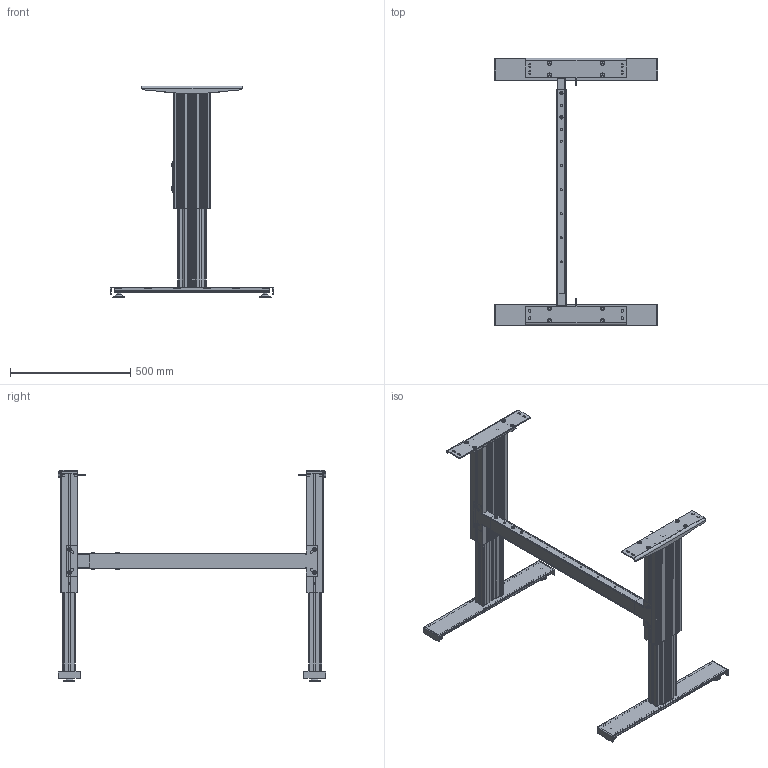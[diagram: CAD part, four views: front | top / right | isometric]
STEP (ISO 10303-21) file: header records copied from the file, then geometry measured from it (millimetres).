
FILE_DESCRIPTION(/* description */ ('Unknown'),/* implementation_level */ '2;1');
FILE_NAME(/* name */ '108.00311_01-Ausgefahren',/* time_stamp */ '2022-02-10T09:25:14+01:00',/* author */ ('Unknown'),/* organization */ ('Unknown'),/* preprocessor_version */ 'ST-DEVELOPER v18.1',/* originating_system */ 'Solid Edge',/* authorisation */ 'Unknown');
FILE_SCHEMA (('AUTOMOTIVE_DESIGN {1 0 10303 214 3 1 1}'));
Products named in the file (35): 108.00311; 306.00803_oa_0; 126.00147; 119.00315; 119.00314; 142.00166; 142.00343; 113.00002; 124.00123; 107.00028_oa_1; 115.00007_oa_2; 306.00803_oa_3; 107.00028_oa_4; 115.00007_oa_5; 127.00635; 060339~2; 060340~3; Sechskantmutter M6 DIN 934; Scheibe Ø6,4 DIN 125; Halbrundkopfschraube mit Innensechskant M8x12 ISO 7380-1; Scheibe Ø8,4 DIN 125; Nutenstein M8_montiert; Halbrundkopfschraube mit Innensechskant und Bund M6x16 ISO 7380-2; 127.00545; 127.00548; 127.00566; 127.00567; 127.00548_461_469_Kehlnaht 1_oa_6; 113.00006; 113.00006-ohne Mutter; Mutter M10; 115.00165; 127.00223; 142.00279; 142.00068
Assembly tree (76 placements, depth 4):
  108.00311
    306.00803_oa_0
      126.00147
      119.00315
      119.00314
      142.00166  x4
      142.00343  x2
      113.00002
      124.00123
      107.00028_oa_1
        115.00007_oa_2
    306.00803_oa_3
      126.00147
      119.00315
      119.00314
      142.00166  x4
      142.00343  x2
      113.00002
      124.00123
      107.00028_oa_4
        115.00007_oa_5
    127.00635
      060339~2
      060340~3
      Sechskantmutter M6 DIN 934  x4
      Scheibe Ø6,4 DIN 125  x4
      Halbrundkopfschraube mit Innensechskant M8x12 ISO 7380-1  x4
      Scheibe Ø8,4 DIN 125  x4
      Nutenstein M8_montiert  x4
      Halbrundkopfschraube mit Innensechskant und Bund M6x16 ISO 7380-2  x4
    127.00545  x2
      127.00548
        127.00566
        127.00567
        127.00548_461_469_Kehlnaht 1_oa_6
      113.00006
        113.00006-ohne Mutter
        Mutter M10
    115.00165  x2
      127.00223
      142.00279
      142.00068
Bounding box: 680 x 1110 x 880 mm (x, y, z)
Volume: 6585146.5 mm3; surface area: 3454187.1 mm2
Topology: 102 solids, 102 shells, 6080 faces, 17067 edges, 11263 vertices
Faces by surface type: plane 3316, cylinder 2344, cone 234, torus 108, bspline 74, sphere 4
Full cylindrical faces by diameter (mm): 2.2 x2, 3.242 x4, 3.4 x2, 4 x6, 5 x10, 5.5 x8, 6 x8, 6.4 x4, 6.6 x2, 6.647 x12, 7 x16, 8 x18, 8.376 x10, 8.5 x28, 8.7 x8, 9 x8, 9.5 x4, 10 x4, 12 x4, 12.5 x2, 13.5 x2, 13.6 x4, 14 x4, 15 x4, 16.8 x4, 19 x4, 25 x14, 29 x4, 30 x4, 35 x4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
Entity records: 102406 total; most frequent: CARTESIAN_POINT 17486, ORIENTED_EDGE 15324, DIRECTION 15086, EDGE_CURVE 7662, VERTEX_POINT 5149, AXIS2_PLACEMENT_3D 5058, LINE 4970, VECTOR 4970
